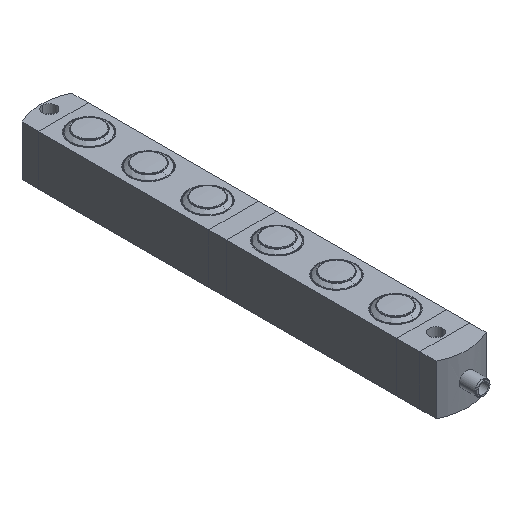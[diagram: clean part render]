
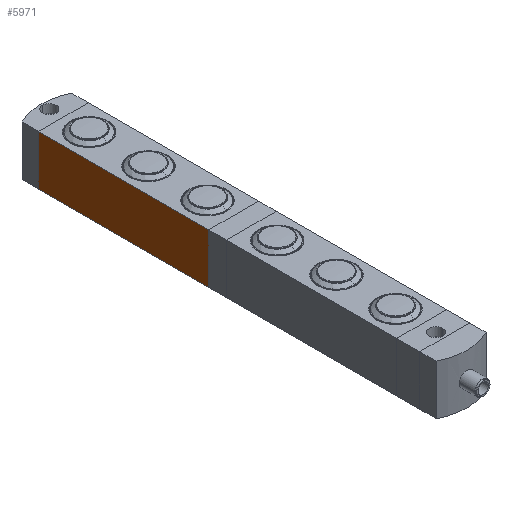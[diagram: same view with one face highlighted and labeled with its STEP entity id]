
A CAD part, isometric view. The second image highlights one B-rep face of the part: STEP entity #5971.
In plain terms, the highlighted planar face has unit normal (-1, 0, 0) as drawn and (0, 0, 1) by its records, which use the part's own axes.
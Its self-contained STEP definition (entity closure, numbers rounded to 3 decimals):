
#46 = EDGE_CURVE ( 'NONE', #2843, #1710, #1560, .T. ) ;
#337 = CARTESIAN_POINT ( 'NONE',  ( 68.35, 40., 20. ) ) ;
#466 = VECTOR ( 'NONE', #4049, 1000. ) ;
#644 = EDGE_LOOP ( 'NONE', ( #3606, #734, #5426, #2927 ) ) ;
#734 = ORIENTED_EDGE ( 'NONE', *, *, #2407, .F. ) ;
#787 = LINE ( 'NONE', #4505, #466 ) ;
#831 = DIRECTION ( 'NONE',  ( 0., -1., 0. ) ) ;
#1295 = CARTESIAN_POINT ( 'NONE',  ( 68.35, 40., 20. ) ) ;
#1309 = DIRECTION ( 'NONE',  ( 1., 0., 0. ) ) ;
#1560 = LINE ( 'NONE', #2501, #3840 ) ;
#1675 = LINE ( 'NONE', #4055, #1730 ) ;
#1710 = VERTEX_POINT ( 'NONE', #5879 ) ;
#1730 = VECTOR ( 'NONE', #1309, 1000. ) ;
#1839 = VERTEX_POINT ( 'NONE', #5545 ) ;
#2206 = AXIS2_PLACEMENT_3D ( 'NONE', #2814, #4196, #4615 ) ;
#2407 = EDGE_CURVE ( 'NONE', #2624, #1839, #3687, .T. ) ;
#2501 = CARTESIAN_POINT ( 'NONE',  ( -68.35, 40., 20. ) ) ;
#2615 = VECTOR ( 'NONE', #831, 1000. ) ;
#2624 = VERTEX_POINT ( 'NONE', #337 ) ;
#2638 = DIRECTION ( 'NONE',  ( 0., -1., 0. ) ) ;
#2814 = CARTESIAN_POINT ( 'NONE',  ( -68.35, 40., 20. ) ) ;
#2843 = VERTEX_POINT ( 'NONE', #4783 ) ;
#2927 = ORIENTED_EDGE ( 'NONE', *, *, #46, .T. ) ;
#3606 = ORIENTED_EDGE ( 'NONE', *, *, #5382, .T. ) ;
#3684 = PLANE ( 'NONE',  #2206 ) ;
#3687 = LINE ( 'NONE', #1295, #2615 ) ;
#3840 = VECTOR ( 'NONE', #2638, 1000. ) ;
#4049 = DIRECTION ( 'NONE',  ( 1., 0., 0. ) ) ;
#4055 = CARTESIAN_POINT ( 'NONE',  ( -68.35, 40., 20. ) ) ;
#4196 = DIRECTION ( 'NONE',  ( 0., 0., -1. ) ) ;
#4505 = CARTESIAN_POINT ( 'NONE',  ( -68.35, 0., 20. ) ) ;
#4615 = DIRECTION ( 'NONE',  ( -1., 0., 0. ) ) ;
#4783 = CARTESIAN_POINT ( 'NONE',  ( -68.35, 40., 20. ) ) ;
#4881 = EDGE_CURVE ( 'NONE', #2843, #2624, #1675, .T. ) ;
#5382 = EDGE_CURVE ( 'NONE', #1710, #1839, #787, .T. ) ;
#5426 = ORIENTED_EDGE ( 'NONE', *, *, #4881, .F. ) ;
#5501 = FACE_OUTER_BOUND ( 'NONE', #644, .T. ) ;
#5545 = CARTESIAN_POINT ( 'NONE',  ( 68.35, 0., 20. ) ) ;
#5879 = CARTESIAN_POINT ( 'NONE',  ( -68.35, 0., 20. ) ) ;
#5971 = ADVANCED_FACE ( 'NONE', ( #5501 ), #3684, .F. ) ;
